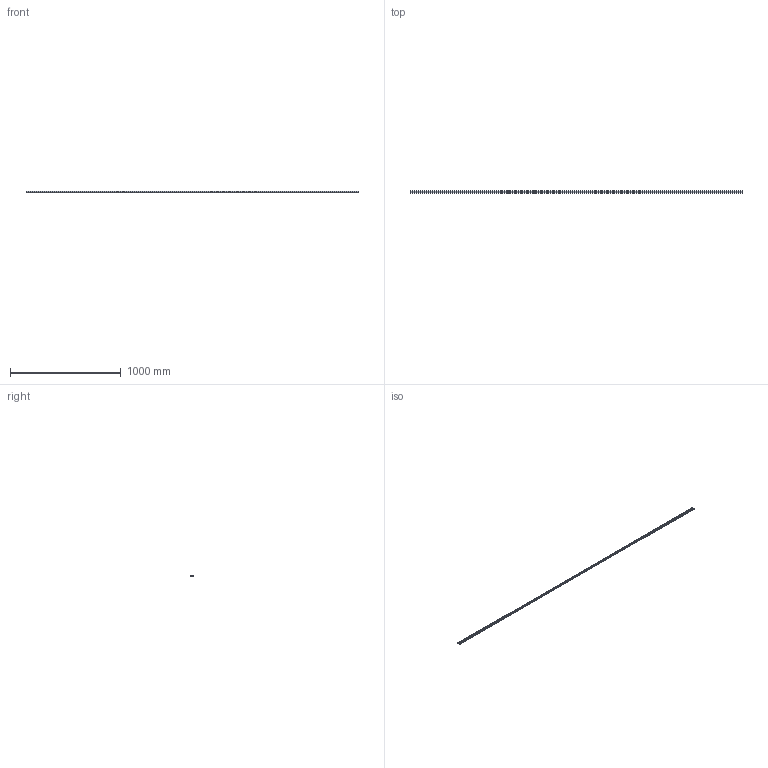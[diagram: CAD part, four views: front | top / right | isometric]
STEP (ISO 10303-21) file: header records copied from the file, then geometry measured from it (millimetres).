
FILE_DESCRIPTION (( 'STEP AP214' ), '1' );
FILE_NAME ('FABER - C2010.STEP', '2017-04-06T07:34:05', ( '' ), ( '' ), 'SwSTEP 2.0', 'SolidWorks 2016', '' );
FILE_SCHEMA (( 'AUTOMOTIVE_DESIGN' ));
Length unit declared in the file: millimetre
Products named in the file (1): FABER - C2010
Bounding box: 3000 x 20 x 10 mm (x, y, z)
Volume: 188342.9 mm3; surface area: 260249.5 mm2
Topology: 1 solids, 1 shells, 22 faces, 60 edges, 40 vertices
Faces by surface type: plane 14, cylinder 8
Entity records: 734 total; most frequent: CARTESIAN_POINT 123, DIRECTION 122, ORIENTED_EDGE 120, EDGE_CURVE 60, LINE 44, VECTOR 44, VERTEX_POINT 40, AXIS2_PLACEMENT_3D 39
